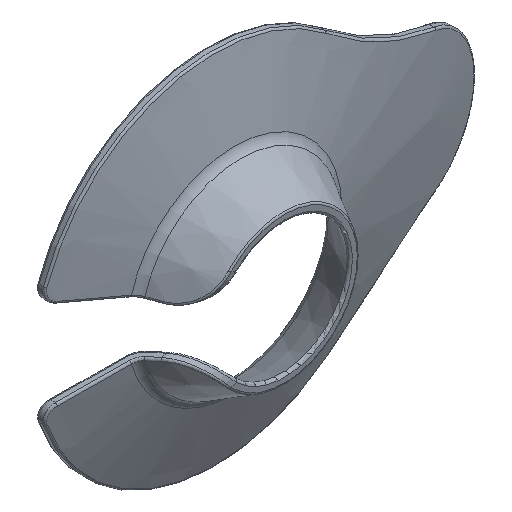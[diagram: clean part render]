
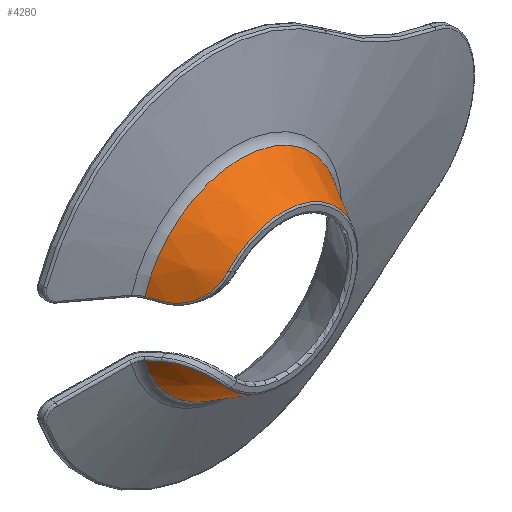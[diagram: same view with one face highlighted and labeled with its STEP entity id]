
A CAD part, isometric view. The second image highlights one B-rep face of the part: STEP entity #4280.
In plain terms, the highlighted conical face has half-angle 30 degrees and reference radius 20.328 mm.
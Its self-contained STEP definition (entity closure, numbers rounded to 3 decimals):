
#232=CARTESIAN_POINT('',(0.,0.202,0.));
#233=DIRECTION('',(0.,1.,0.));
#234=DIRECTION('',(-0.731,0.,0.682));
#235=AXIS2_PLACEMENT_3D('',#232,#233,#234);
#237=CARTESIAN_POINT('',(0.,0.202,0.));
#238=DIRECTION('',(0.,1.,0.));
#239=DIRECTION('',(0.77,0.,0.638));
#240=AXIS2_PLACEMENT_3D('',#237,#238,#239);
#242=CARTESIAN_POINT('',(0.,0.202,0.));
#243=DIRECTION('',(0.,1.,0.));
#244=DIRECTION('',(1.,0.,0.));
#245=AXIS2_PLACEMENT_3D('',#242,#243,#244);
#972=CARTESIAN_POINT('',(-22.274,10.158,-6.496));
#973=CARTESIAN_POINT('',(-22.122,9.885,-6.455));
#974=CARTESIAN_POINT('',(-21.817,9.339,-6.374));
#975=CARTESIAN_POINT('',(-21.361,8.521,-6.251));
#976=CARTESIAN_POINT('',(-21.056,7.975,-6.17));
#977=CARTESIAN_POINT('',(-20.904,7.702,-6.129));
#979=CARTESIAN_POINT('',(-20.904,7.702,-6.129));
#980=CARTESIAN_POINT('',(-20.737,7.402,-6.085));
#981=CARTESIAN_POINT('',(-20.365,6.756,-6.026));
#982=CARTESIAN_POINT('',(-19.76,5.771,-6.064));
#983=CARTESIAN_POINT('',(-19.114,4.797,-6.243));
#984=CARTESIAN_POINT('',(-18.487,3.93,-6.537));
#985=CARTESIAN_POINT('',(-17.906,3.202,-6.896));
#986=CARTESIAN_POINT('',(-17.365,2.59,-7.296));
#987=CARTESIAN_POINT('',(-16.839,2.059,-7.734));
#988=CARTESIAN_POINT('',(-16.304,1.589,-8.221));
#989=CARTESIAN_POINT('',(-15.751,1.176,-8.757));
#990=CARTESIAN_POINT('',(-15.19,0.834,
-9.327));
#991=CARTESIAN_POINT('',(-14.639,0.573,
-9.902));
#992=CARTESIAN_POINT('',(-14.118,0.391,
-10.455));
#993=CARTESIAN_POINT('',(-13.635,0.276,
-10.972));
#994=CARTESIAN_POINT('',(-13.186,0.215,
-11.453));
#995=CARTESIAN_POINT('',(-12.897,0.202,
-11.762));
#996=CARTESIAN_POINT('',(-12.758,0.202,
-11.911));
#998=CARTESIAN_POINT('',(-12.758,0.202,11.911));
#999=CARTESIAN_POINT('',(-12.897,0.202,11.762));
#1000=CARTESIAN_POINT('',(-13.186,0.215,
11.453));
#1001=CARTESIAN_POINT('',(-13.635,0.276,
10.972));
#1002=CARTESIAN_POINT('',(-14.118,0.391,
10.455));
#1003=CARTESIAN_POINT('',(-14.639,0.573,
9.902));
#1004=CARTESIAN_POINT('',(-15.19,0.834,
9.327));
#1005=CARTESIAN_POINT('',(-15.751,1.176,8.757));
#1006=CARTESIAN_POINT('',(-16.304,1.589,8.221));
#1007=CARTESIAN_POINT('',(-16.839,2.059,7.734));
#1008=CARTESIAN_POINT('',(-17.365,2.59,7.296));
#1009=CARTESIAN_POINT('',(-17.906,3.202,6.896));
#1010=CARTESIAN_POINT('',(-18.487,3.93,6.537));
#1011=CARTESIAN_POINT('',(-19.114,4.797,6.243));
#1012=CARTESIAN_POINT('',(-19.76,5.771,6.064));
#1013=CARTESIAN_POINT('',(-20.365,6.756,6.026));
#1014=CARTESIAN_POINT('',(-20.737,7.402,6.085));
#1015=CARTESIAN_POINT('',(-20.904,7.702,6.129));
#1017=CARTESIAN_POINT('',(-20.904,7.702,6.129));
#1018=CARTESIAN_POINT('',(-21.056,7.975,6.17));
#1019=CARTESIAN_POINT('',(-21.361,8.521,6.251));
#1020=CARTESIAN_POINT('',(-21.817,9.339,6.374));
#1021=CARTESIAN_POINT('',(-22.122,9.885,6.455));
#1022=CARTESIAN_POINT('',(-22.274,10.158,6.496));
#1055=CARTESIAN_POINT('',(0.,10.158,0.));
#1056=DIRECTION('',(0.,-1.,0.));
#1057=DIRECTION('',(-0.96,0.,-0.28));
#1058=AXIS2_PLACEMENT_3D('',#1055,#1056,#1057);
#1060=CARTESIAN_POINT('',(0.,10.158,0.));
#1061=DIRECTION('',(0.,-1.,0.));
#1062=DIRECTION('',(0.001,0.,-1.));
#1063=AXIS2_PLACEMENT_3D('',#1060,#1061,#1062);
#1065=CARTESIAN_POINT('',(0.,10.158,0.));
#1066=DIRECTION('',(0.,-1.,0.));
#1067=DIRECTION('',(1.,0.,0.));
#1068=AXIS2_PLACEMENT_3D('',#1065,#1066,#1067);
#1070=CARTESIAN_POINT('',(0.,10.158,0.));
#1071=DIRECTION('',(0.,-1.,0.));
#1072=DIRECTION('',(-0.001,0.,1.));
#1073=AXIS2_PLACEMENT_3D('',#1070,#1071,#1072);
#2849=CARTESIAN_POINT('',(-12.758,0.202,
11.911));
#2850=VERTEX_POINT('',#2849);
#2851=CARTESIAN_POINT('',(13.444,0.202,11.13));
#2852=VERTEX_POINT('',#2851);
#2853=CARTESIAN_POINT('',(17.454,0.202,
0.));
#2854=VERTEX_POINT('',#2853);
#2855=CARTESIAN_POINT('',(-12.758,0.202,
-11.911));
#2856=VERTEX_POINT('',#2855);
#2858=CARTESIAN_POINT('',(-20.904,7.702,6.129));
#2859=VERTEX_POINT('',#2858);
#2975=CARTESIAN_POINT('',(-20.904,7.702,
-6.129));
#2976=VERTEX_POINT('',#2975);
#2977=VERTEX_POINT('',#972);
#2978=CARTESIAN_POINT('',(0.025,10.158,
-23.202));
#2979=VERTEX_POINT('',#2978);
#2980=CARTESIAN_POINT('',(23.202,10.158,0.));
#2981=VERTEX_POINT('',#2980);
#2982=CARTESIAN_POINT('',(-0.025,10.158,
23.202));
#2983=VERTEX_POINT('',#2982);
#2984=CARTESIAN_POINT('',(-22.274,10.158,6.496));
#2985=VERTEX_POINT('',#2984);
#4257=CARTESIAN_POINT('',(0.,5.18,0.));
#4258=DIRECTION('',(0.,1.,0.));
#4259=DIRECTION('',(-1.,0.,0.));
#4260=AXIS2_PLACEMENT_3D('',#4257,#4258,#4259);
#4261=CONICAL_SURFACE('',#4260,20.328,30.);
#4263=ORIENTED_EDGE('',*,*,#4262,.F.);
#4265=ORIENTED_EDGE('',*,*,#4264,.F.);
#4267=ORIENTED_EDGE('',*,*,#4266,.F.);
#4269=ORIENTED_EDGE('',*,*,#4268,.F.);
#4270=ORIENTED_EDGE('',*,*,#4161,.T.);
#4271=ORIENTED_EDGE('',*,*,#4251,.T.);
#4272=ORIENTED_EDGE('',*,*,#3780,.F.);
#4273=ORIENTED_EDGE('',*,*,#3778,.F.);
#4274=ORIENTED_EDGE('',*,*,#3776,.F.);
#4275=ORIENTED_EDGE('',*,*,#3872,.T.);
#4277=ORIENTED_EDGE('',*,*,#4276,.T.);
#4278=EDGE_LOOP('',(#4263,#4265,#4267,#4269,#4270,#4271,#4272,#4273,#4274,#4275,
#4277));
#4279=FACE_OUTER_BOUND('',#4278,.F.);
#4280=ADVANCED_FACE('',(#4279),#4261,.T.);
#236=CIRCLE('',#235,17.454);
#241=CIRCLE('',#240,17.454);
#246=CIRCLE('',#245,17.454);
#978=B_SPLINE_CURVE_WITH_KNOTS('',3,(#972,#973,#974,#975,#976,#977),
.UNSPECIFIED.,.F.,.F.,(4,1,1,4),(0.,0.333,0.667,1.),
.UNSPECIFIED.);
#997=B_SPLINE_CURVE_WITH_KNOTS('',3,(#979,#980,#981,#982,#983,#984,#985,#986,
#987,#988,#989,#990,#991,#992,#993,#994,#995,#996),.UNSPECIFIED.,.F.,.F.,(4,1,1,
1,1,1,1,1,1,1,1,1,1,1,1,4),(0.,0.077,0.167,
0.258,0.34,0.414,0.48,
0.542,0.606,0.67,0.735,
0.797,0.855,0.907,0.955,1.),
.UNSPECIFIED.);
#1016=B_SPLINE_CURVE_WITH_KNOTS('',3,(#998,#999,#1000,#1001,#1002,#1003,#1004,
#1005,#1006,#1007,#1008,#1009,#1010,#1011,#1012,#1013,#1014,#1015),
.UNSPECIFIED.,.F.,.F.,(4,1,1,1,1,1,1,1,1,1,1,1,1,1,1,4),(0.,0.045,
0.093,0.145,0.203,0.265,
0.33,0.394,0.458,0.52,
0.586,0.66,0.742,0.833,
0.923,1.),.UNSPECIFIED.);
#1023=B_SPLINE_CURVE_WITH_KNOTS('',3,(#1017,#1018,#1019,#1020,#1021,#1022),
.UNSPECIFIED.,.F.,.F.,(4,1,1,4),(0.,0.333,0.667,1.),
.UNSPECIFIED.);
#1059=CIRCLE('',#1058,23.202);
#1064=CIRCLE('',#1063,23.202);
#1069=CIRCLE('',#1068,23.202);
#1074=CIRCLE('',#1073,23.202);
#3776=EDGE_CURVE('',#2850,#2852,#236,.T.);
#3778=EDGE_CURVE('',#2852,#2854,#241,.T.);
#3780=EDGE_CURVE('',#2854,#2856,#246,.T.);
#3872=EDGE_CURVE('',#2850,#2859,#1016,.T.);
#4161=EDGE_CURVE('',#2977,#2976,#978,.T.);
#4251=EDGE_CURVE('',#2976,#2856,#997,.T.);
#4262=EDGE_CURVE('',#2983,#2985,#1074,.T.);
#4264=EDGE_CURVE('',#2981,#2983,#1069,.T.);
#4266=EDGE_CURVE('',#2979,#2981,#1064,.T.);
#4268=EDGE_CURVE('',#2977,#2979,#1059,.T.);
#4276=EDGE_CURVE('',#2859,#2985,#1023,.T.);
